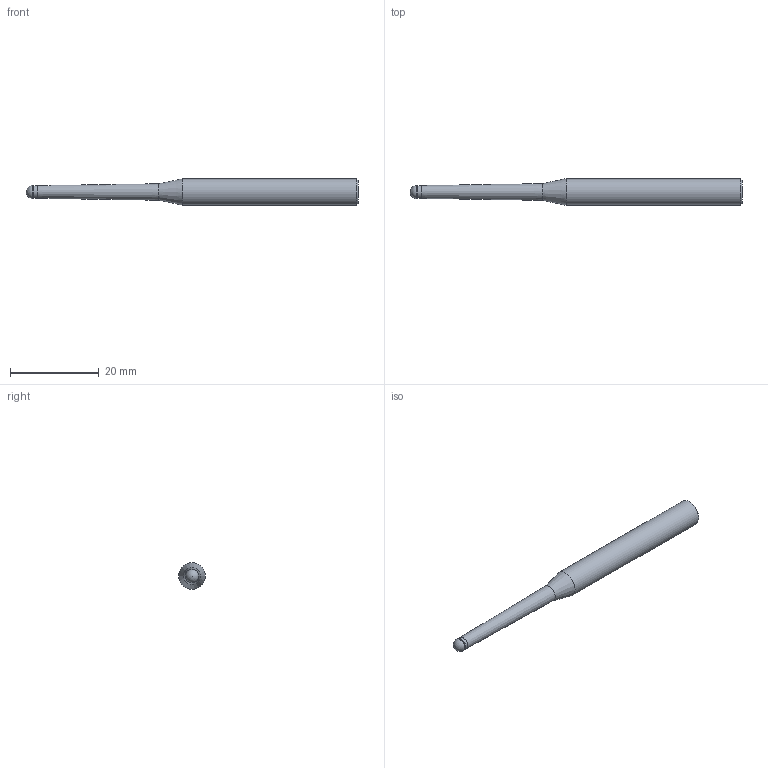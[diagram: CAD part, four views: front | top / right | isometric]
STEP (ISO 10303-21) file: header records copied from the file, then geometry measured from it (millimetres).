
FILE_DESCRIPTION(/* description */ (''),/* implementation_level */ '2;1');
FILE_NAME(/* name */ 'HGXPB2030-30-T0.9 0675.stp',/* time_stamp */ '2026-01-23T15:38:35+08:00',/* author */ (''),/* organization */ (''),/* preprocessor_version */ 'ST-DEVELOPER v16',/* originating_system */ 'SIEMENS PLM Software NX 10.0',/* authorisation */ '');
FILE_SCHEMA (('CONFIG_CONTROL_DESIGN'));
Length unit declared in the file: millimetre
Products named in the file (1): HGXPB2030-30-T0.9 0675_dxf
Bounding box: 75 x 6 x 6 mm (x, y, z)
Volume: 1477.9 mm3; surface area: 1168.1 mm2
Topology: 1 solids, 1 shells, 9 faces, 16 edges, 9 vertices
Faces by surface type: cylinder 3, cone 3, plane 2, sphere 1
Full cylindrical faces by diameter (mm): 2.9 x1, 3 x1, 6 x1
Entity records: 258 total; most frequent: DIRECTION 36, CARTESIAN_POINT 26, AXIS2_PLACEMENT_3D 18, EDGE_LOOP 16, ORIENTED_EDGE 16, FACE_BOUND 14, ADVANCED_FACE 9, VERTEX_POINT 8
